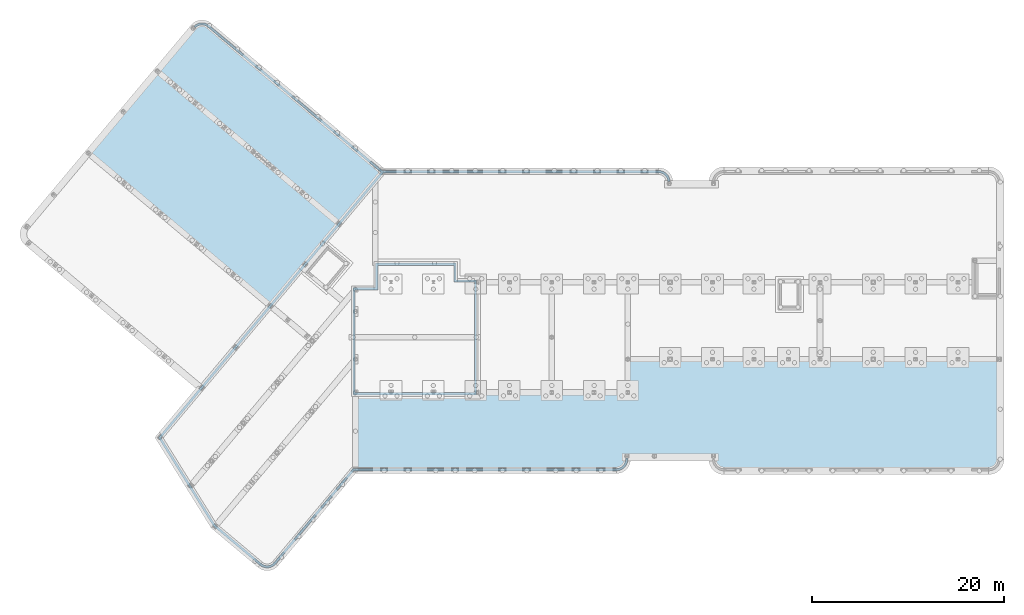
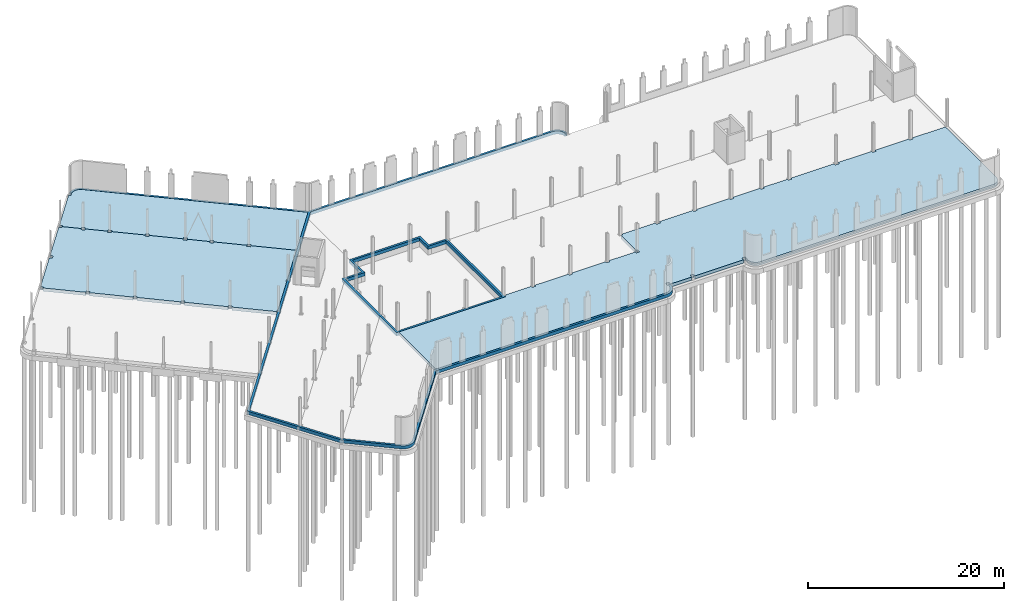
# One storey, part 20 of 26: 5 slabs, 1 opening.
"""IFC2X3 building model written with IfcOpenShell, lengths in millimetres."""

from ifc_helpers import new_model, entity, si_unit, converted_unit, derived_unit, direction, frame, frame_2d, origin, place, context, subcontext, project, spatial, polyline, circle_curve, parameter, trimmed, segment, composite_curve, outline, extrude, material, layer, layer_set, layer_usage, type_object, element, save


model = new_model("IFC2X3")

# Units and contexts
model_context = context("Model", 3, precision=0.01, world=origin(), true_north=direction((6.123031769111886e-17, 1.0)))
body_context = subcontext(model_context, "Body", "Model", "MODEL_VIEW")
ifc_project = project(units=[si_unit("LENGTHUNIT", "METRE", prefix="MILLI"), si_unit("AREAUNIT", "SQUARE_METRE"), si_unit("VOLUMEUNIT", "CUBIC_METRE"), derived_unit("MASSDENSITYUNIT", [(si_unit("MASSUNIT", "GRAM", prefix="KILO"), 1), (si_unit("LENGTHUNIT", "METRE"), -3)]), si_unit("MASSUNIT", "GRAM", prefix="KILO"), converted_unit("PLANEANGLEUNIT", "DEGREE", entity("IfcPlaneAngleMeasure", 0.017453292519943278), si_unit("PLANEANGLEUNIT", "RADIAN"), dimensions=[0, 0, 0, 0, 0, 0, 0])], contexts=[model_context])

# Site, building, storey
site_placement = place(None, origin())
site = spatial("IfcSite", under=ifc_project, at=site_placement, Name="Default", CompositionType="ELEMENT")
building_placement = place(site_placement, origin())
building = spatial("IfcBuilding", under=site, at=building_placement, Name="AT constructie", CompositionType="ELEMENT")
storey_placement = place(building_placement, origin())
storey = spatial("IfcBuildingStorey", under=building, at=storey_placement, Name="00 begane grond", CompositionType="ELEMENT", Elevation=-1.0828671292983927e-12)

# Slab
ifc_material_1 = material(Name="f2_beton ihwg_gen")
ifc_layer_1 = layer(ifc_material_1, 400.0)
ifc_layer_set_1 = layer_set([ifc_layer_1], Name="Floor:NLRS_23_FL_gewapend beton_400_opstort gen_AT")
ifc_layer_usage_1 = layer_usage(ifc_layer_set_1, "AXIS3", "POSITIVE", 0.0)
slab_type_1 = type_object("IfcSlabType", Name="NLRS_23_FL_gewapend beton_400_opstort gen_AT", PredefinedType="FLOOR", material=ifc_layer_set_1)
slab_1_placement = place(storey_placement, frame((20661.89347021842, 1584.4521505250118, -450.0)))
element("IfcSlab", 1, at=slab_1_placement, inside=storey, type_object=slab_type_1, material=ifc_layer_usage_1, Name="Floor:NLRS_23_FL_gewapend beton_400_opstort gen_AT:2", ObjectType="Floor:NLRS_23_FL_gewapend beton_400_opstort gen_AT", PredefinedType="FLOOR", context=body_context, shape_type="SweptSolid", body=[
    extrude(outline(composite_curve([segment(trimmed(circle_curve(frame_2d((-8242.490580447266, 11766.131869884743), x_axis=(-1.0, 0.0)), 1200.0000000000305), [parameter(269.9999999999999)], [parameter(356.6558477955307)], True, "PARAMETER"), True, "CONTINUOUS"), segment(polyline([(-9440.447173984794, 11836.131869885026), (-9189.908123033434, 11836.131869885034)]), True, "CONTINUOUS"), segment(trimmed(circle_curve(frame_2d((-8242.490580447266, 11766.131869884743), x_axis=(-1.0, 0.0)), 950.0000000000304), [parameter(269.9999999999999)], [parameter(355.7743760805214)], True, "PARAMETER"), False, "CONTINUOUS"), segment(polyline([(-8242.490580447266, 12716.131869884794), (20340.932505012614, 12716.131869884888)]), True, "CONTINUOUS"), segment(polyline([(20340.932505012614, 12716.131869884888), (43434.53119330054, -14805.74733281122)]), True, "CONTINUOUS"), segment(polyline([(43434.53119330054, -14805.74733281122), (37830.36769052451, -23824.085997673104)]), True, "CONTINUOUS"), segment(polyline([(37830.36769052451, -23824.0859976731), (33034.80784206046, -27848.038497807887)]), True, "CONTINUOUS"), segment(trimmed(circle_curve(frame_2d((32423.705646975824, -27120.67744086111), x_axis=(-1.0, 0.0)), 950.0000000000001), [parameter(42.145889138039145)], [parameter(130.03575049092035)], True, "PARAMETER"), False, "CONTINUOUS"), segment(polyline([(31719.33893205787, -27758.1470722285), (23517.74507670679, -17983.868130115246)]), True, "CONTINUOUS"), segment(polyline([(23517.74507670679, -17983.868130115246), (-3842.4905804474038, -17983.868130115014)]), True, "CONTINUOUS"), segment(trimmed(circle_curve(frame_2d((-3842.4905804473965, -17033.86813011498), x_axis=(-1.0, 0.0)), 950.0000000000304), [parameter(3.5622212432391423e-13)], [parameter(90.00000000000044)], True, "PARAMETER"), False, "CONTINUOUS"), segment(polyline([(-4792.490580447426, -17033.86813011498), (-4792.490580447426, -16898.868127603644)]), True, "CONTINUOUS"), segment(polyline([(-4792.490580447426, -16898.868127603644), (-5042.490580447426, -16898.868127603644)]), True, "CONTINUOUS"), segment(polyline([(-5042.490580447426, -16898.868127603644), (-5042.490580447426, -17033.86813011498)]), True, "CONTINUOUS"), segment(trimmed(circle_curve(frame_2d((-3842.4905804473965, -17033.86813011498), x_axis=(-1.0, 0.0)), 1200.0000000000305), [parameter(3.5622212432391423e-13)], [parameter(90.00000000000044)], True, "PARAMETER"), True, "CONTINUOUS"), segment(polyline([(-3842.4905804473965, -18233.86813011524), (23401.168162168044, -18233.86813011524)]), True, "CONTINUOUS"), segment(polyline([(23401.168162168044, -18233.86813011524), (31530.661821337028, -27922.221404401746)]), True, "CONTINUOUS"), segment(trimmed(circle_curve(frame_2d((32423.705646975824, -27120.67744086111), x_axis=(-1.0, 0.0)), 1200.0), [parameter(41.90929560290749)], [parameter(130.03180923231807)], True, "PARAMETER"), True, "CONTINUOUS"), segment(polyline([(33195.56100694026, -28039.50239877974), (38021.64099901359, -23989.94045739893)]), True, "CONTINUOUS"), segment(polyline([(38021.64099901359, -23989.94045739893), (43742.49058044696, -14783.82808210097)]), True, "CONTINUOUS"), segment(polyline([(43742.49058044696, -14783.82808210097), (20618.20632197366, 12774.620759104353)]), True, "CONTINUOUS"), segment(polyline([(20618.20632197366, 12774.620759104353), (38582.00477563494, 27848.03741611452)]), True, "CONTINUOUS"), segment(trimmed(circle_curve(frame_2d((39193.10697108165, 27120.67635947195), x_axis=(-1.0, 0.0)), 950.0000000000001), [parameter(225.9364576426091)], [parameter(310.0357505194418)], True, "PARAMETER"), False, "CONTINUOUS"), segment(polyline([(39853.789893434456, 27803.316876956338), (40046.11717572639, 27964.698628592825)]), True, "CONTINUOUS"), segment(trimmed(circle_curve(frame_2d((39193.10697108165, 27120.67635947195), x_axis=(-1.0, 0.0)), 1200.0), [parameter(224.69654914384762)], [parameter(310.03180925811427)], True, "PARAMETER"), True, "CONTINUOUS"), segment(polyline([(38421.25161070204, 28039.501317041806), (20457.509419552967, 12966.131869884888)]), True, "CONTINUOUS"), segment(polyline([(20457.509419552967, 12966.131869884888), (-8242.490580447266, 12966.131869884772)]), True, "CONTINUOUS")], self_intersect=False)), frame((43742.49058044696, 28320.45948811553, 400.0), z_axis=(0.0, 0.0, -1.0), x_axis=(-1.0, 0.0, 0.0)), (0.0, 0.0, 1.0), 400.0),
])

# Slab, opening
ifc_layer_usage_2 = layer_usage(ifc_layer_set_1, "AXIS3", "POSITIVE", 0.0)
slab_2_placement = place(storey_placement, frame((40871.87463111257, 19546.043508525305, -450.0)))
slab_2 = element("IfcSlab", 2, at=slab_2_placement, inside=storey, type_object=slab_type_1, material=ifc_layer_usage_2, Name="Floor:NLRS_23_FL_gewapend beton_400_opstort gen_AT", ObjectType="Floor:NLRS_23_FL_gewapend beton_400_opstort gen_AT", PredefinedType="FLOOR", context=body_context, shape_type="SweptSolid", body=[
    extrude(outline(polyline([(-6437.499999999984, 5112.5000000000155), (-6437.499999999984, -6862.500000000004), (6437.4999999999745, -6862.500000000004), (6437.4999999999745, 4312.499999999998), (4092.4999999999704, 4312.500000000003), (4092.4999999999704, 6862.500000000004), (-4307.5, 6862.500000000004), (-4307.5, 5112.500000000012), (-6437.499999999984, 5112.5000000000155)])), frame((6437.4999999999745, 6862.500000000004, 400.0), z_axis=(0.0, 0.0, -1.0), x_axis=(-1.0, 0.0, 0.0)), (0.0, 0.0, 1.0), 400.0),
])
opening_placement = place(slab_2_placement, origin())
element("IfcOpeningElement", 3, at=opening_placement, cuts=slab_2, Name="Floor:NLRS_23_FL_gewapend beton_400_opstort gen_AT", ObjectType="Opening", context=body_context, shape_type="SweptSolid", body=[
    extrude(outline(polyline([(-2631.249999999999, 6133.74999999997), (-2631.2499999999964, 4003.7499999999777), (-4381.250000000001, 4003.7499999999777), (-4381.250000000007, -3896.249999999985), (-1831.2500000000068, -3896.249999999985), (-1831.250000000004, -6241.249999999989), (8843.75, -6241.249999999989), (8843.750000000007, 6133.749999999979), (-2631.249999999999, 6133.74999999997)])), frame((6491.249999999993, 9093.750000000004, 400.0), z_axis=(0.0, 0.0, 1.0), x_axis=(0.0, -1.0, 0.0)), (0.0, 0.0, -1.0), 400.0),
])

# Slabs
ifc_material_2 = material(Name="f2_beton_prefab_gen")
ifc_layer_2 = layer(ifc_material_2, 260.0)
ifc_material_3 = material(Name="n7_isolatie_gen")
ifc_layer_3 = layer(ifc_material_3, 140.0)
ifc_layer_set_2 = layer_set([ifc_layer_2, ifc_layer_3], Name="Floor:NLRS_23_FL_geissoleerde kanaalplaatvloer 260_gen_AT")
ifc_layer_usage_3 = layer_usage(ifc_layer_set_2, "AXIS3", "POSITIVE", 0.0)
slab_type_2 = type_object("IfcSlabType", Name="NLRS_23_FL_geissoleerde kanaalplaatvloer 260_gen_AT", PredefinedType="FLOOR", material=ifc_layer_set_2)
slab_3_placement = place(storey_placement, origin())
element("IfcSlab", 4, at=slab_3_placement, inside=storey, type_object=slab_type_2, material=ifc_layer_usage_3, Name="Floor:NLRS_23_FL_geissoleerde kanaalplaatvloer 260_gen_AT", ObjectType="Floor:NLRS_23_FL_geissoleerde kanaalplaatvloer 260_gen_AT", PredefinedType="FLOOR", context=body_context, shape_type="SweptSolid", body=[
    extrude(outline(composite_curve([segment(polyline([(-7413.114458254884, -35586.90361284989), (160.38554174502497, -35586.90361284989)]), True, "CONTINUOUS"), segment(polyline([(160.38554174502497, -35586.90361284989), (160.3855417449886, -22986.903612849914)]), True, "CONTINUOUS"), segment(polyline([(160.3855417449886, -22986.903612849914), (235.38554174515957, -22986.903612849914)]), True, "CONTINUOUS"), segment(polyline([(235.38554174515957, -22986.903612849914), (235.38554174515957, -22836.903612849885)]), True, "CONTINUOUS"), segment(polyline([(235.38554174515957, -22836.903612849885), (435.38554174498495, -22836.903612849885)]), True, "CONTINUOUS"), segment(polyline([(435.38554174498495, -22836.903612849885), (435.38554174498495, -19786.903612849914)]), True, "CONTINUOUS"), segment(polyline([(435.3855417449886, -19786.903612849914), (235.3855417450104, -19786.903612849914)]), True, "CONTINUOUS"), segment(polyline([(235.38554174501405, -19786.903612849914), (235.38554174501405, -19386.903612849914)]), True, "CONTINUOUS"), segment(polyline([(235.38554174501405, -19386.903612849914), (435.3855417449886, -19386.903612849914)]), True, "CONTINUOUS"), segment(polyline([(435.38554174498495, -19386.903612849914), (435.38554174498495, -15386.903612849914)]), True, "CONTINUOUS"), segment(polyline([(435.3855417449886, -15386.903612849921), (235.38554174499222, -15386.903612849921)]), True, "CONTINUOUS"), segment(polyline([(235.38554174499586, -15386.903612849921), (235.38554174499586, -14986.903612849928)]), True, "CONTINUOUS"), segment(polyline([(235.38554174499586, -14986.903612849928), (435.3855417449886, -14986.903612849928)]), True, "CONTINUOUS"), segment(polyline([(435.3855417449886, -14986.903612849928), (435.3855417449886, -10986.903612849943)]), True, "CONTINUOUS"), segment(polyline([(435.3855417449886, -10986.903612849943), (235.3855417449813, -10986.903612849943)]), True, "CONTINUOUS"), segment(polyline([(235.3855417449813, -10986.903612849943), (235.3855417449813, -10586.903612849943)]), True, "CONTINUOUS"), segment(polyline([(235.3855417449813, -10586.903612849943), (435.3855417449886, -10586.903612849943)]), True, "CONTINUOUS"), segment(polyline([(435.3855417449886, -10586.903612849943), (435.3855417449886, -7486.903612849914)]), True, "CONTINUOUS"), segment(polyline([(435.3855417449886, -7486.903612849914), (235.38554174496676, -7486.903612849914)]), True, "CONTINUOUS"), segment(polyline([(235.3855417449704, -7486.903612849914), (235.3855417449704, -7086.903612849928)]), True, "CONTINUOUS"), segment(polyline([(235.3855417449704, -7086.903612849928), (635.3855417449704, -7086.903612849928)]), True, "CONTINUOUS"), segment(polyline([(635.3855417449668, -7086.903612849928), (635.3855417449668, -7286.903612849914)]), True, "CONTINUOUS"), segment(polyline([(635.3855417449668, -7286.903612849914), (3685.3855417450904, -7286.903612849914)]), True, "CONTINUOUS"), segment(polyline([(3685.3855417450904, -7286.903612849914), (3685.3855417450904, -7086.903612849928)]), True, "CONTINUOUS"), segment(polyline([(3685.3855417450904, -7086.903612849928), (3885.3855417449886, -7086.903612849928)]), True, "CONTINUOUS"), segment(polyline([(3885.3855417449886, -7086.903612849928), (3885.3855417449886, -3136.903612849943)]), True, "CONTINUOUS"), segment(polyline([(3885.3855417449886, -3136.903612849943), (3635.385541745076, -3136.903612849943)]), True, "CONTINUOUS"), segment(polyline([(3635.385541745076, -3136.903612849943), (3635.385541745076, -2636.9036128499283)]), True, "CONTINUOUS"), segment(polyline([(3635.385541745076, -2636.9036128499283), (3885.3855417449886, -2636.9036128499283)]), True, "CONTINUOUS"), segment(polyline([(3885.3855417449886, -2636.9036128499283), (3885.3855417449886, 1313.096387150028)]), True, "CONTINUOUS"), segment(polyline([(3885.3855417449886, 1313.096387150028), (3685.385541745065, 1313.096387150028)]), True, "CONTINUOUS"), segment(polyline([(3685.385541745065, 1313.096387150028), (3685.385541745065, 1713.0963871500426)]), True, "CONTINUOUS"), segment(polyline([(3685.385541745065, 1713.0963871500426), (3885.385541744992, 1713.0963871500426)]), True, "CONTINUOUS"), segment(polyline([(3885.3855417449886, 1713.0963871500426), (3885.385541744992, 5613.096387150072)]), True, "CONTINUOUS"), segment(polyline([(3885.385541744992, 5613.096387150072), (3685.385541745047, 5613.096387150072)]), True, "CONTINUOUS"), segment(polyline([(3685.3855417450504, 5613.096387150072), (3685.3855417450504, 6013.096387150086)]), True, "CONTINUOUS"), segment(polyline([(3685.3855417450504, 6013.096387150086), (3885.385541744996, 6013.096387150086)]), True, "CONTINUOUS"), segment(polyline([(3885.385541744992, 6013.096387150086), (3885.385541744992, 9213.096387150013)]), True, "CONTINUOUS"), segment(polyline([(3885.385541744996, 9213.096387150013), (3685.3855417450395, 9213.096387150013)]), True, "CONTINUOUS"), segment(polyline([(3685.3855417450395, 9213.096387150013), (3685.3855417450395, 9613.096387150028)]), True, "CONTINUOUS"), segment(polyline([(3685.3855417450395, 9613.096387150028), (3885.385541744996, 9613.096387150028)]), True, "CONTINUOUS"), segment(polyline([(3885.385541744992, 9613.096387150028), (3885.385541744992, 12473.596387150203)]), True, "CONTINUOUS"), segment(polyline([(3885.385541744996, 12473.596387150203), (3685.3855417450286, 12473.596387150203)]), True, "CONTINUOUS"), segment(polyline([(3685.3855417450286, 12473.596387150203), (3685.3855417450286, 12873.596387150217)]), True, "CONTINUOUS"), segment(polyline([(3685.3855417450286, 12873.596387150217), (3885.385541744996, 12873.596387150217)]), True, "CONTINUOUS"), segment(polyline([(3885.385541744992, 12873.596387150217), (3885.385541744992, 17968.59638535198)]), True, "CONTINUOUS"), segment(polyline([(3885.385541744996, 17968.59638535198), (3635.3855417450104, 17968.59638535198)]), True, "CONTINUOUS"), segment(polyline([(3635.3855417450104, 17968.59638535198), (3635.3855417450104, 18468.596385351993)]), True, "CONTINUOUS"), segment(polyline([(3635.3855417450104, 18468.59638535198), (3885.385541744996, 18468.59638535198)]), True, "CONTINUOUS"), segment(polyline([(3885.385541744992, 18468.59638535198), (3885.385541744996, 22418.59638535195)]), True, "CONTINUOUS"), segment(polyline([(3885.385541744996, 22418.59638535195), (3685.385541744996, 22418.59638535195)]), True, "CONTINUOUS"), segment(polyline([(3685.3855417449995, 22418.59638535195), (3685.3855417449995, 22818.59638535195)]), True, "CONTINUOUS"), segment(polyline([(3685.3855417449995, 22818.59638535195), (3885.385541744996, 22818.59638535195)]), True, "CONTINUOUS"), segment(polyline([(3885.385541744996, 22818.59638535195), (3885.385541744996, 26818.596385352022)]), True, "CONTINUOUS"), segment(polyline([(3885.385541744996, 26818.596385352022), (3685.3855417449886, 26818.596385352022)]), True, "CONTINUOUS"), segment(polyline([(3685.3855417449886, 26818.596385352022), (3685.3855417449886, 27218.596385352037)]), True, "CONTINUOUS"), segment(polyline([(3685.3855417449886, 27218.596385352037), (3885.385541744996, 27218.596385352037)]), True, "CONTINUOUS"), segment(polyline([(3885.385541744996, 27218.596385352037), (3885.385541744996, 31115.596385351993)]), True, "CONTINUOUS"), segment(polyline([(3885.385541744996, 31115.596385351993), (3685.3855417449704, 31115.596385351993)]), True, "CONTINUOUS"), segment(polyline([(3685.385541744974, 31115.596385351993), (3685.385541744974, 31163.096387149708)]), True, "CONTINUOUS"), segment(polyline([(3685.385541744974, 31163.096387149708), (-6484.614458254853, 31163.096387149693)]), True, "CONTINUOUS"), segment(trimmed(circle_curve(frame_2d((-6484.614458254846, 30183.09638714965), x_axis=(0.0, 1.0)), 980.0000000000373), [parameter(0.0)], [parameter(90.00000000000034)], True, "PARAMETER"), True, "CONTINUOUS"), segment(polyline([(-7464.614458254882, 30183.09638714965), (-7464.6144582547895, 2713.0963871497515)]), True, "CONTINUOUS"), segment(trimmed(circle_curve(frame_2d((-6514.614458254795, 2713.0963871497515), x_axis=(-1.0, 0.0)), 949.9999999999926), [parameter(0.0)], [parameter(89.9999999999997)], True, "PARAMETER"), True, "CONTINUOUS"), segment(polyline([(-6514.614458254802, 1763.0963871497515), (-6379.614455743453, 1763.0963871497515)]), True, "CONTINUOUS"), segment(polyline([(-6379.614455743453, 1763.0963871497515), (-6379.614455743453, 1814.5963889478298)]), True, "CONTINUOUS"), segment(polyline([(-6379.614455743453, 1814.5963889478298), (-5979.614455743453, 1814.5963889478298)]), True, "CONTINUOUS"), segment(polyline([(-5979.614455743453, 1814.5963889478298), (-5979.614455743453, 1414.5963889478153)]), True, "CONTINUOUS"), segment(polyline([(-5979.614455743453, 1414.5963889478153), (-6314.614455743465, 1414.5963889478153)]), True, "CONTINUOUS"), segment(polyline([(-6314.614455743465, 1414.5963889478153), (-6314.614455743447, -4329.403636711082)]), True, "CONTINUOUS"), segment(polyline([(-6314.614455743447, -4329.403636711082), (-5989.6144557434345, -4329.403636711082)]), True, "CONTINUOUS"), segment(polyline([(-5989.6144557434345, -4329.403636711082), (-5989.6144557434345, -4729.403636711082)]), True, "CONTINUOUS"), segment(polyline([(-5989.6144557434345, -4729.403636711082), (-6314.614455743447, -4729.403636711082)]), True, "CONTINUOUS"), segment(polyline([(-6314.614455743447, -4729.403636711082), (-6314.614455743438, -7188.403617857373)]), True, "CONTINUOUS"), segment(polyline([(-6314.614455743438, -7188.403617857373), (-5979.614455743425, -7188.403617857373)]), True, "CONTINUOUS"), segment(polyline([(-5979.614455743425, -7188.403617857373), (-5979.614455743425, -7588.403617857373)]), True, "CONTINUOUS"), segment(polyline([(-5979.614455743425, -7588.403617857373), (-6379.614455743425, -7588.403617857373)]), True, "CONTINUOUS"), segment(polyline([(-6379.614455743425, -7588.403617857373), (-6379.614455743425, -7536.903612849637)]), True, "CONTINUOUS"), segment(polyline([(-6379.614455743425, -7536.903612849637), (-6514.61445825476, -7536.903612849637)]), True, "CONTINUOUS"), segment(trimmed(circle_curve(frame_2d((-6514.614458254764, -8486.903612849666), x_axis=(0.0, 1.0)), 950.0000000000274), [parameter(0.0)], [parameter(89.99999999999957)], True, "PARAMETER"), True, "CONTINUOUS"), segment(polyline([(-7464.614458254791, -8486.903612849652), (-7464.6144582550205, -35386.903612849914)]), True, "CONTINUOUS"), segment(polyline([(-7464.6144582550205, -35386.903612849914), (-7413.114458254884, -35386.903612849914)]), True, "CONTINUOUS"), segment(polyline([(-7413.114458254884, -35386.903612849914), (-7413.114458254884, -35586.90361284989)]), True, "CONTINUOUS")], self_intersect=False)), frame((76733.77824396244, 19385.657966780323, -50.0), z_axis=(0.0, 0.0, -1.0), x_axis=(0.0, 1.0, 0.0)), (0.0, 0.0, 1.0), 400.00000000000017),
])
ifc_layer_usage_4 = layer_usage(ifc_layer_set_2, "AXIS3", "POSITIVE", 0.0)
slab_4_placement = place(storey_placement, origin())
element("IfcSlab", 5, at=slab_4_placement, inside=storey, type_object=slab_type_2, material=ifc_layer_usage_4, Name="Floor:NLRS_23_FL_geissoleerde kanaalplaatvloer 260_gen_AT", ObjectType="Floor:NLRS_23_FL_geissoleerde kanaalplaatvloer 260_gen_AT", PredefinedType="FLOOR", context=body_context, shape_type="SweptSolid", body=[
    extrude(outline(composite_curve([segment(polyline([(-9177.324220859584, -5897.292483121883), (14272.749224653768, -5897.29248312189)]), True, "CONTINUOUS"), segment(polyline([(14272.749224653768, -5897.29248312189), (14272.749224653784, 777.7075168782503)]), True, "CONTINUOUS"), segment(polyline([(14272.749224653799, 777.7075168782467), (14197.74922465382, 777.707516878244)]), True, "CONTINUOUS"), segment(polyline([(14197.749224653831, 777.7075168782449), (14197.749224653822, 977.707516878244)]), True, "CONTINUOUS"), segment(polyline([(14197.749224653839, 977.7075168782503), (9542.749224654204, 977.7075168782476)]), True, "CONTINUOUS"), segment(polyline([(9542.749224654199, 977.7075168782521), (9542.749224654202, 777.7075168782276)]), True, "CONTINUOUS"), segment(polyline([(9542.749224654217, 777.707516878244), (9142.749224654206, 777.7075168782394)]), True, "CONTINUOUS"), segment(polyline([(9142.749224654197, 777.7075168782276), (9142.749224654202, 977.707516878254)]), True, "CONTINUOUS"), segment(polyline([(9142.749224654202, 977.707516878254), (5672.749224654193, 977.7075168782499)]), True, "CONTINUOUS"), segment(polyline([(5672.749224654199, 977.7075168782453), (5672.749224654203, 777.7075168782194)]), True, "CONTINUOUS"), segment(polyline([(5672.749224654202, 777.7075168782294), (5272.749224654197, 777.7075168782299)]), True, "CONTINUOUS"), segment(polyline([(5272.749224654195, 777.7075168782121), (5272.749224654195, 977.7075168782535)]), True, "CONTINUOUS"), segment(polyline([(5272.7492246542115, 977.7075168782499), (2927.747649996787, 977.7075168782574)]), True, "CONTINUOUS"), segment(polyline([(2927.7476499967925, 977.7075168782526), (2927.7476499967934, 777.707516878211)]), True, "CONTINUOUS"), segment(polyline([(2927.7476499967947, 777.7075168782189), (2527.7476499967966, 777.7075168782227)]), True, "CONTINUOUS"), segment(polyline([(2527.7476499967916, 777.7075168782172), (2527.7476499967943, 977.7075168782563)]), True, "CONTINUOUS"), segment(polyline([(2527.747649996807, 977.7075168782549), (-1002.2507753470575, 977.7075168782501)]), True, "CONTINUOUS"), segment(polyline([(-1002.2507753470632, 977.7075168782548), (-1002.2507753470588, 777.7075168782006)]), True, "CONTINUOUS"), segment(polyline([(-1002.2507753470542, 777.7075168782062), (-1402.2507753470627, 777.707516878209)]), True, "CONTINUOUS"), segment(polyline([(-1402.2507753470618, 777.7075168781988), (-1402.2507753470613, 977.7075168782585)]), True, "CONTINUOUS"), segment(polyline([(-1402.2507753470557, 977.7075168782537), (-4922.250775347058, 977.7075168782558)]), True, "CONTINUOUS"), segment(polyline([(-4922.250775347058, 977.7075168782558), (-4922.25077534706, 777.7075168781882)]), True, "CONTINUOUS"), segment(polyline([(-4922.250775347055, 777.7075168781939), (-5322.250775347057, 777.7075168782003)]), True, "CONTINUOUS"), segment(polyline([(-5322.250775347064, 777.7075168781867), (-5322.250775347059, 977.7075168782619)]), True, "CONTINUOUS"), segment(polyline([(-5322.250775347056, 977.7075168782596), (-7677.250775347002, 977.7075168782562)]), True, "CONTINUOUS"), segment(polyline([(-7677.2507753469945, 977.707516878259), (-7677.250775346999, 777.7075168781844)]), True, "CONTINUOUS"), segment(polyline([(-7677.2507753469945, 777.7075168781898), (-8077.2507753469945, 777.7075168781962)]), True, "CONTINUOUS"), segment(polyline([(-8077.250775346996, 777.7075168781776), (-8077.250775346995, 977.7075168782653)]), True, "CONTINUOUS"), segment(polyline([(-8077.25077534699, 977.7075168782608), (-10064.750775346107, 977.7075168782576)]), True, "CONTINUOUS"), segment(polyline([(-10064.7507753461, 977.7075168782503), (-10064.750775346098, 777.7075168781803)]), True, "CONTINUOUS"), segment(polyline([(-10064.750775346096, 777.7075168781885), (-10377.250775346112, 777.707516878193)]), True, "CONTINUOUS"), segment(polyline([(-10377.250775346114, 777.7075168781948), (-10377.250775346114, -4645.546846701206)]), True, "CONTINUOUS"), segment(polyline([(-10377.250775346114, -4645.546846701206), (-10122.822334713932, -4645.546846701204)]), True, "CONTINUOUS"), segment(polyline([(-10122.822334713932, -4645.546846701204), (-10122.82233471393, -5045.546846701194)]), True, "CONTINUOUS"), segment(trimmed(circle_curve(frame_2d((-9177.91698687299, -4947.292668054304), x_axis=(-0.994637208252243, -0.103425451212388)), 949.9999999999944), [parameter(0.0)], [parameter(84.0992928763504)], True, "PARAMETER"), True, "CONTINUOUS")], self_intersect=False)), frame((29061.910958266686, 47336.29061937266, -50.0), z_axis=(0.0, 0.0, -1.0), x_axis=(0.7660444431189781, -0.6427876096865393, 0.0)), (0.0, 0.0, 1.0), 400.0),
])
ifc_layer_usage_5 = layer_usage(ifc_layer_set_2, "AXIS3", "POSITIVE", 0.0)
slab_5_placement = place(storey_placement, origin())
element("IfcSlab", 6, at=slab_5_placement, inside=storey, type_object=slab_type_2, material=ifc_layer_usage_5, Name="Floor:NLRS_23_FL_geissoleerde kanaalplaatvloer 260_gen_AT", ObjectType="Floor:NLRS_23_FL_geissoleerde kanaalplaatvloer 260_gen_AT", PredefinedType="FLOOR", context=body_context, shape_type="SweptSolid", body=[
    extrude(outline(polyline([(-9492.416561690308, 4625.8333333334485), (-9492.416561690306, 4825.833333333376), (-11479.916561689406, 4825.833333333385), (-11479.916561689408, 4625.833333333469), (-11792.416561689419, 4625.833333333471), (-11792.416561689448, -474.16666666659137), (-11479.91656168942, -474.16666666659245), (-11479.916561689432, -874.1666666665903), (-11792.416561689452, -874.1666666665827), (-11792.416561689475, -6099.16666666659), (-11479.916561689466, -6099.1666666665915), (-11479.916561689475, -6299.166666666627), (-7062.416561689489, -6299.166666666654), (-7062.416561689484, -6099.1666666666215), (-6662.41656168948, -6099.166666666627), (-6662.416561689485, -6299.16666666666), (-2132.416561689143, -6299.166666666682), (-2132.416561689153, -6099.166666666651), (-1732.416561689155, -6099.166666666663), (-1732.4165616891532, -6299.166666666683), (2797.583438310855, -6299.16666666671), (2797.583438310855, -6099.166666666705), (3197.5834383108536, -6099.166666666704), (3197.583438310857, -6299.166666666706), (7727.583438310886, -6299.166666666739), (7727.583438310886, -6099.166666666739), (8127.583438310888, -6099.166666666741), (8127.583438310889, -6299.166666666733), (12782.583438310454, -6299.166666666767), (12782.583438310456, -6099.166666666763), (12857.583438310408, -6099.1666666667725), (12857.583438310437, -874.1666666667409), (12782.58343831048, -874.1666666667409), (12782.58343831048, -474.1666666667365), (12857.583438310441, -474.16666666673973), (12857.58343831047, 4625.833333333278), (12782.583438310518, 4625.833333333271), (12782.583438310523, 4825.833333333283), (8127.583438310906, 4825.833333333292), (8127.583438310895, 4625.833333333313), (7727.58343831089, 4625.833333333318), (7727.583438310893, 4825.833333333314), (4257.583438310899, 4825.83333333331), (4257.583438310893, 4625.833333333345), (3857.5834383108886, 4625.83333333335), (3857.5834383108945, 4825.833333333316), (1512.5818636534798, 4825.833333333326), (1512.5818636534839, 4625.8333333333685), (1112.5818636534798, 4625.833333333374), (1112.5818636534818, 4825.833333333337), (-2417.416561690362, 4825.833333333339), (-2417.4165616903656, 4625.833333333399), (-2817.4165616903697, 4625.833333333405), (-2817.416561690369, 4825.833333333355), (-6337.416561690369, 4825.833333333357), (-6337.416561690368, 4625.83333333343), (-6737.416561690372, 4625.833333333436), (-6737.416561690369, 4825.833333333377), (-9092.416561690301, 4825.83333333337), (-9092.416561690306, 4625.833333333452), (-9492.416561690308, 4625.8333333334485)])), frame((26415.546694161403, 41980.86936754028, -50.0), z_axis=(0.0, 0.0, 1.0), x_axis=(0.7660444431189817, -0.6427876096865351, 0.0)), (0.0, 0.0, -1.0), 400.0),
])

save(model, "model.ifc")
